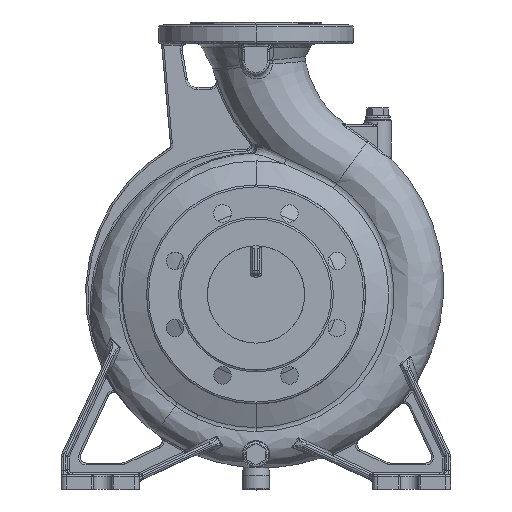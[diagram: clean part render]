
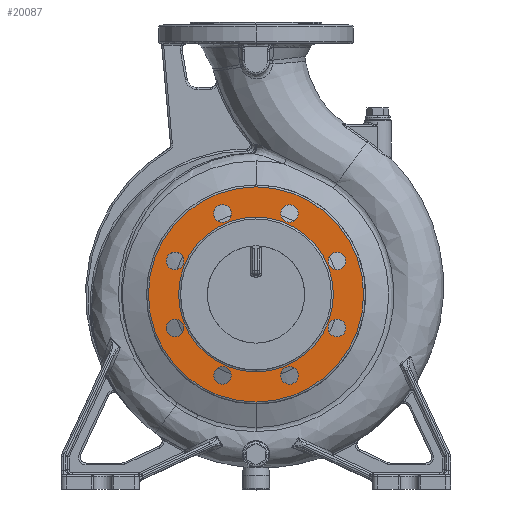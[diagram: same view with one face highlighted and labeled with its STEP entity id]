
A CAD part, top view. The second image highlights one B-rep face of the part: STEP entity #20087.
In plain terms, the highlighted planar face has unit normal (0, 0, 1).
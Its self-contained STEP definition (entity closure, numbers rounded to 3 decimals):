
#4583=CARTESIAN_POINT('',(0.,0.,122.));
#4584=DIRECTION('',(0.,0.,-1.));
#4585=DIRECTION('',(0.,-1.,0.));
#4586=AXIS2_PLACEMENT_3D('',#4583,#4584,#4585);
#4588=CARTESIAN_POINT('',(0.,0.,122.));
#4589=DIRECTION('',(0.,0.,-1.));
#4590=DIRECTION('',(0.,1.,0.));
#4591=AXIS2_PLACEMENT_3D('',#4588,#4589,#4590);
#4593=CARTESIAN_POINT('',(0.,0.,122.));
#4594=DIRECTION('',(0.,0.,1.));
#4595=DIRECTION('',(0.,1.,0.));
#4596=AXIS2_PLACEMENT_3D('',#4593,#4594,#4595);
#4598=CARTESIAN_POINT('',(0.,0.,122.));
#4599=DIRECTION('',(0.,0.,1.));
#4600=DIRECTION('',(0.,-1.,0.));
#4601=AXIS2_PLACEMENT_3D('',#4598,#4599,#4600);
#4603=CARTESIAN_POINT('',(-34.442,83.149,122.));
#4604=DIRECTION('',(0.,0.,1.));
#4605=DIRECTION('',(1.,0.,0.));
#4606=AXIS2_PLACEMENT_3D('',#4603,#4604,#4605);
#4608=CARTESIAN_POINT('',(-34.442,83.149,122.));
#4609=DIRECTION('',(0.,0.,1.));
#4610=DIRECTION('',(-1.,0.,0.));
#4611=AXIS2_PLACEMENT_3D('',#4608,#4609,#4610);
#4613=CARTESIAN_POINT('',(-83.149,34.442,122.));
#4614=DIRECTION('',(0.,0.,1.));
#4615=DIRECTION('',(0.707,0.707,0.));
#4616=AXIS2_PLACEMENT_3D('',#4613,#4614,#4615);
#4618=CARTESIAN_POINT('',(-83.149,34.442,122.));
#4619=DIRECTION('',(0.,0.,1.));
#4620=DIRECTION('',(-0.707,-0.707,0.));
#4621=AXIS2_PLACEMENT_3D('',#4618,#4619,#4620);
#4623=CARTESIAN_POINT('',(-83.149,-34.442,122.));
#4624=DIRECTION('',(0.,0.,1.));
#4625=DIRECTION('',(0.,1.,0.));
#4626=AXIS2_PLACEMENT_3D('',#4623,#4624,#4625);
#4628=CARTESIAN_POINT('',(-83.149,-34.442,122.));
#4629=DIRECTION('',(0.,0.,1.));
#4630=DIRECTION('',(0.,-1.,0.));
#4631=AXIS2_PLACEMENT_3D('',#4628,#4629,#4630);
#4633=CARTESIAN_POINT('',(-34.442,-83.149,122.));
#4634=DIRECTION('',(0.,0.,1.));
#4635=DIRECTION('',(-0.707,0.707,0.));
#4636=AXIS2_PLACEMENT_3D('',#4633,#4634,#4635);
#4638=CARTESIAN_POINT('',(-34.442,-83.149,122.));
#4639=DIRECTION('',(0.,0.,1.));
#4640=DIRECTION('',(0.707,-0.707,0.));
#4641=AXIS2_PLACEMENT_3D('',#4638,#4639,#4640);
#4643=CARTESIAN_POINT('',(34.442,-83.149,122.));
#4644=DIRECTION('',(0.,0.,1.));
#4645=DIRECTION('',(-1.,0.,0.));
#4646=AXIS2_PLACEMENT_3D('',#4643,#4644,#4645);
#4648=CARTESIAN_POINT('',(34.442,-83.149,122.));
#4649=DIRECTION('',(0.,0.,1.));
#4650=DIRECTION('',(1.,0.,0.));
#4651=AXIS2_PLACEMENT_3D('',#4648,#4649,#4650);
#4653=CARTESIAN_POINT('',(83.149,-34.442,122.));
#4654=DIRECTION('',(0.,0.,1.));
#4655=DIRECTION('',(-0.707,-0.707,0.));
#4656=AXIS2_PLACEMENT_3D('',#4653,#4654,#4655);
#4658=CARTESIAN_POINT('',(83.149,-34.442,122.));
#4659=DIRECTION('',(0.,0.,1.));
#4660=DIRECTION('',(0.707,0.707,0.));
#4661=AXIS2_PLACEMENT_3D('',#4658,#4659,#4660);
#4663=CARTESIAN_POINT('',(83.149,34.442,122.));
#4664=DIRECTION('',(0.,0.,1.));
#4665=DIRECTION('',(0.,-1.,0.));
#4666=AXIS2_PLACEMENT_3D('',#4663,#4664,#4665);
#4668=CARTESIAN_POINT('',(83.149,34.442,122.));
#4669=DIRECTION('',(0.,0.,1.));
#4670=DIRECTION('',(0.,1.,0.));
#4671=AXIS2_PLACEMENT_3D('',#4668,#4669,#4670);
#4673=CARTESIAN_POINT('',(34.442,83.149,122.));
#4674=DIRECTION('',(0.,0.,1.));
#4675=DIRECTION('',(0.707,-0.707,0.));
#4676=AXIS2_PLACEMENT_3D('',#4673,#4674,#4675);
#4678=CARTESIAN_POINT('',(34.442,83.149,122.));
#4679=DIRECTION('',(0.,0.,1.));
#4680=DIRECTION('',(-0.707,0.707,0.));
#4681=AXIS2_PLACEMENT_3D('',#4678,#4679,#4680);
#9528=CARTESIAN_POINT('',(0.,-79.5,122.));
#9529=CARTESIAN_POINT('',(0.,79.5,122.));
#9530=VERTEX_POINT('',#9528);
#9531=VERTEX_POINT('',#9529);
#9532=CARTESIAN_POINT('',(0.,110.5,122.));
#9533=CARTESIAN_POINT('',(0.,-110.5,122.));
#9534=VERTEX_POINT('',#9532);
#9535=VERTEX_POINT('',#9533);
#9604=CARTESIAN_POINT('',(-25.442,83.149,122.));
#9605=CARTESIAN_POINT('',(-43.442,83.149,122.));
#9606=VERTEX_POINT('',#9604);
#9607=VERTEX_POINT('',#9605);
#9612=CARTESIAN_POINT('',(-76.785,40.805,122.));
#9613=CARTESIAN_POINT('',(-89.513,28.078,122.));
#9614=VERTEX_POINT('',#9612);
#9615=VERTEX_POINT('',#9613);
#9620=CARTESIAN_POINT('',(-83.149,-25.442,122.));
#9621=CARTESIAN_POINT('',(-83.149,-43.442,122.));
#9622=VERTEX_POINT('',#9620);
#9623=VERTEX_POINT('',#9621);
#9628=CARTESIAN_POINT('',(-40.805,-76.785,122.));
#9629=CARTESIAN_POINT('',(-28.078,-89.513,122.));
#9630=VERTEX_POINT('',#9628);
#9631=VERTEX_POINT('',#9629);
#9636=CARTESIAN_POINT('',(25.442,-83.149,122.));
#9637=CARTESIAN_POINT('',(43.442,-83.149,122.));
#9638=VERTEX_POINT('',#9636);
#9639=VERTEX_POINT('',#9637);
#9644=CARTESIAN_POINT('',(76.785,-40.805,122.));
#9645=CARTESIAN_POINT('',(89.513,-28.078,122.));
#9646=VERTEX_POINT('',#9644);
#9647=VERTEX_POINT('',#9645);
#9652=CARTESIAN_POINT('',(83.149,25.442,122.));
#9653=CARTESIAN_POINT('',(83.149,43.442,122.));
#9654=VERTEX_POINT('',#9652);
#9655=VERTEX_POINT('',#9653);
#9660=CARTESIAN_POINT('',(40.805,76.785,122.));
#9661=CARTESIAN_POINT('',(28.078,89.513,122.));
#9662=VERTEX_POINT('',#9660);
#9663=VERTEX_POINT('',#9661);
#20023=CARTESIAN_POINT('',(0.,0.,122.));
#20024=DIRECTION('',(0.,0.,-1.));
#20025=DIRECTION('',(0.,-1.,0.));
#20026=AXIS2_PLACEMENT_3D('',#20023,#20024,#20025);
#20027=PLANE('',#20026);
#20029=ORIENTED_EDGE('',*,*,#20028,.F.);
#20031=ORIENTED_EDGE('',*,*,#20030,.F.);
#20032=EDGE_LOOP('',(#20029,#20031));
#20033=FACE_OUTER_BOUND('',#20032,.F.);
#20035=ORIENTED_EDGE('',*,*,#20034,.F.);
#20037=ORIENTED_EDGE('',*,*,#20036,.F.);
#20038=EDGE_LOOP('',(#20035,#20037));
#20039=FACE_BOUND('',#20038,.F.);
#20040=ORIENTED_EDGE('',*,*,#20013,.T.);
#20042=ORIENTED_EDGE('',*,*,#20041,.T.);
#20043=EDGE_LOOP('',(#20040,#20042));
#20044=FACE_BOUND('',#20043,.F.);
#20046=ORIENTED_EDGE('',*,*,#20045,.T.);
#20048=ORIENTED_EDGE('',*,*,#20047,.T.);
#20049=EDGE_LOOP('',(#20046,#20048));
#20050=FACE_BOUND('',#20049,.F.);
#20052=ORIENTED_EDGE('',*,*,#20051,.T.);
#20054=ORIENTED_EDGE('',*,*,#20053,.T.);
#20055=EDGE_LOOP('',(#20052,#20054));
#20056=FACE_BOUND('',#20055,.F.);
#20058=ORIENTED_EDGE('',*,*,#20057,.T.);
#20060=ORIENTED_EDGE('',*,*,#20059,.T.);
#20061=EDGE_LOOP('',(#20058,#20060));
#20062=FACE_BOUND('',#20061,.F.);
#20064=ORIENTED_EDGE('',*,*,#20063,.T.);
#20066=ORIENTED_EDGE('',*,*,#20065,.T.);
#20067=EDGE_LOOP('',(#20064,#20066));
#20068=FACE_BOUND('',#20067,.F.);
#20070=ORIENTED_EDGE('',*,*,#20069,.T.);
#20072=ORIENTED_EDGE('',*,*,#20071,.T.);
#20073=EDGE_LOOP('',(#20070,#20072));
#20074=FACE_BOUND('',#20073,.F.);
#20076=ORIENTED_EDGE('',*,*,#20075,.T.);
#20078=ORIENTED_EDGE('',*,*,#20077,.T.);
#20079=EDGE_LOOP('',(#20076,#20078));
#20080=FACE_BOUND('',#20079,.F.);
#20082=ORIENTED_EDGE('',*,*,#20081,.T.);
#20084=ORIENTED_EDGE('',*,*,#20083,.T.);
#20085=EDGE_LOOP('',(#20082,#20084));
#20086=FACE_BOUND('',#20085,.F.);
#4587=CIRCLE('',#4586,79.5);
#4592=CIRCLE('',#4591,79.5);
#4597=CIRCLE('',#4596,110.5);
#4602=CIRCLE('',#4601,110.5);
#4607=CIRCLE('',#4606,9.);
#4612=CIRCLE('',#4611,9.);
#4617=CIRCLE('',#4616,9.);
#4622=CIRCLE('',#4621,9.);
#4627=CIRCLE('',#4626,9.);
#4632=CIRCLE('',#4631,9.);
#4637=CIRCLE('',#4636,9.);
#4642=CIRCLE('',#4641,9.);
#4647=CIRCLE('',#4646,9.);
#4652=CIRCLE('',#4651,9.);
#4657=CIRCLE('',#4656,9.);
#4662=CIRCLE('',#4661,9.);
#4667=CIRCLE('',#4666,9.);
#4672=CIRCLE('',#4671,9.);
#4677=CIRCLE('',#4676,9.);
#4682=CIRCLE('',#4681,9.);
#20013=EDGE_CURVE('',#9606,#9607,#4607,.T.);
#20028=EDGE_CURVE('',#9534,#9535,#4597,.T.);
#20030=EDGE_CURVE('',#9535,#9534,#4602,.T.);
#20034=EDGE_CURVE('',#9530,#9531,#4587,.T.);
#20036=EDGE_CURVE('',#9531,#9530,#4592,.T.);
#20041=EDGE_CURVE('',#9607,#9606,#4612,.T.);
#20045=EDGE_CURVE('',#9614,#9615,#4617,.T.);
#20047=EDGE_CURVE('',#9615,#9614,#4622,.T.);
#20051=EDGE_CURVE('',#9622,#9623,#4627,.T.);
#20053=EDGE_CURVE('',#9623,#9622,#4632,.T.);
#20057=EDGE_CURVE('',#9630,#9631,#4637,.T.);
#20059=EDGE_CURVE('',#9631,#9630,#4642,.T.);
#20063=EDGE_CURVE('',#9638,#9639,#4647,.T.);
#20065=EDGE_CURVE('',#9639,#9638,#4652,.T.);
#20069=EDGE_CURVE('',#9646,#9647,#4657,.T.);
#20071=EDGE_CURVE('',#9647,#9646,#4662,.T.);
#20075=EDGE_CURVE('',#9654,#9655,#4667,.T.);
#20077=EDGE_CURVE('',#9655,#9654,#4672,.T.);
#20081=EDGE_CURVE('',#9662,#9663,#4677,.T.);
#20083=EDGE_CURVE('',#9663,#9662,#4682,.T.);
#20087=ADVANCED_FACE('',(#20033,#20039,#20044,#20050,#20056,#20062,#20068,
#20074,#20080,#20086),#20027,.F.);
